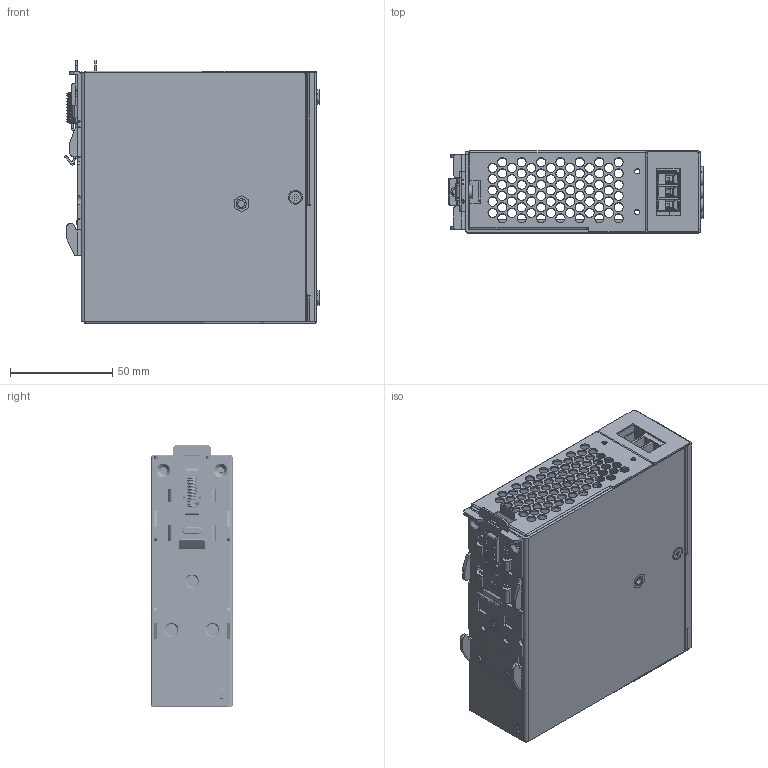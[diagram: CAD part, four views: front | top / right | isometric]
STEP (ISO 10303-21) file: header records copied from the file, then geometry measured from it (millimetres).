
FILE_DESCRIPTION((''),'2;1');
FILE_NAME('240W-ASM_ASM','2022-01-05T',('JOSH.LEE'),(''),'PRO/ENGINEER BY PARAMETRIC TECHNOLOGY CORPORATION, 2015240','PRO/ENGINEER BY PARAMETRIC TECHNOLOGY CORPORATION, 2015240','');
FILE_SCHEMA(('AUTOMOTIVE_DESIGN { 1 0 10303 214 1 1 1 1 }'));
Products named in the file (18): 240W_NEW_CHASSIS; 240W_CHASSIS-STANDOFF; 240W-NEW-COVER-SHEETMETAL; 346654410101; 346008810000; 346202620000; BRACKET_3486195900_ASM; SCREW-FLAT-L5; 240W-CASE-ASM_ASM; 240W-PWB-MAIN; 240W-PWB-SMALL; 480W_NM02100A000G; 480W-LED; 480W-VR131; KP03; KP04; 240W-EE-PART_ASM; 240W-ASM_ASM
Assembly tree (21 placements, depth 4):
  240W-ASM_ASM
    240W-CASE-ASM_ASM
      240W_NEW_CHASSIS
      240W_CHASSIS-STANDOFF
      240W-NEW-COVER-SHEETMETAL
      BRACKET_3486195900_ASM
        346654410101
        346008810000
        346202620000
      SCREW-FLAT-L5  x5
    240W-EE-PART_ASM
      240W-PWB-MAIN
      240W-PWB-SMALL
      480W_NM02100A000G
      480W-LED
      480W-VR131
      KP03
      KP04
Bounding box: 125.14 x 40 x 128.8 mm (x, y, z)
Volume: 88513.5 mm3; surface area: 154519.5 mm2
Topology: 25 solids, 25 shells, 4964 faces, 13918 edges, 8916 vertices
Faces by surface type: plane 2934, cylinder 1642, bspline 129, cone 108, torus 99, sphere 48, extrusion 4
Entity records: 212138 total; most frequent: CARTESIAN_POINT 51387, ORIENTED_EDGE 27208, DIRECTION 25649, EDGE_CURVE 13604, PRESENTATION_STYLE_ASSIGNMENT 10964, STYLED_ITEM 10964, CURVE_STYLE 10948, VECTOR 9193
